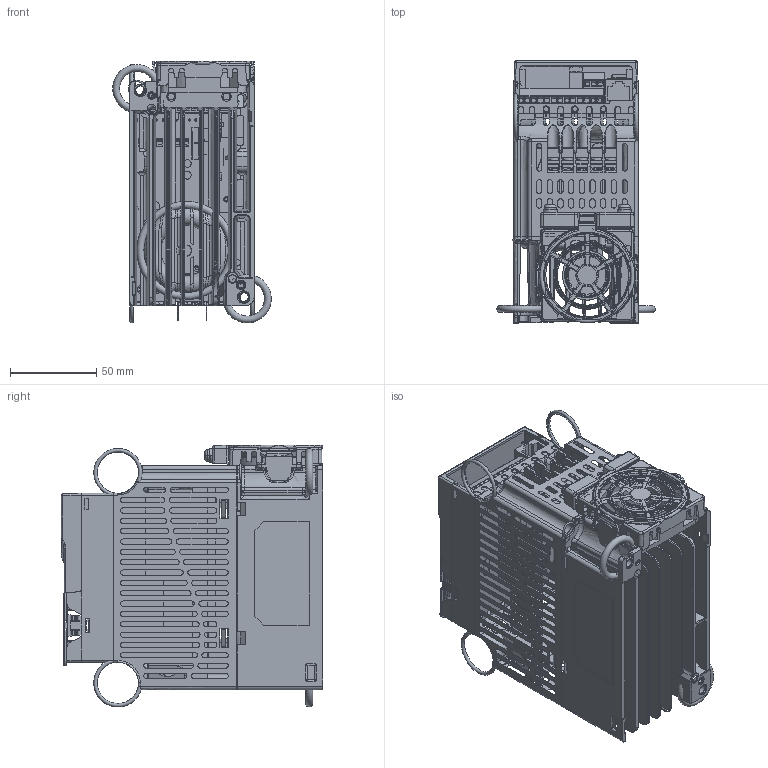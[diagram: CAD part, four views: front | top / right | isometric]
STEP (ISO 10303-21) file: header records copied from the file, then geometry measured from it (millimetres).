
FILE_DESCRIPTION((''),'2;1');
FILE_NAME('VFD-E-A1-PD-3D00','2009-11-11T',('KADY.CHANG'),(''),'PRO/ENGINEER BY PARAMETRIC TECHNOLOGY CORPORATION, 2007390','PRO/ENGINEER BY PARAMETRIC TECHNOLOGY CORPORATION, 2007390','');
FILE_SCHEMA(('CONFIG_CONTROL_DESIGN'));
Products named in the file (1): VFD-E-A1-PD-3D00
Bounding box: 91.94 x 152 x 151.99 mm (x, y, z)
Surface area: 239684 mm2 (no closed solid volume)
Topology: 0 solids, 0 shells, 1584 faces, 12567 edges, 12480 vertices
Faces by surface type: bspline 1474, torus 100, sphere 10
Entity records: 235322 total; most frequent: CARTESIAN_POINT 113656, DIRECTION 20351, TRIMMED_CURVE 17949, VECTOR 15767, LINE 15767, DEFINITIONAL_REPRESENTATION 12396, PCURVE 12396, COMPOSITE_CURVE_SEGMENT 12396
